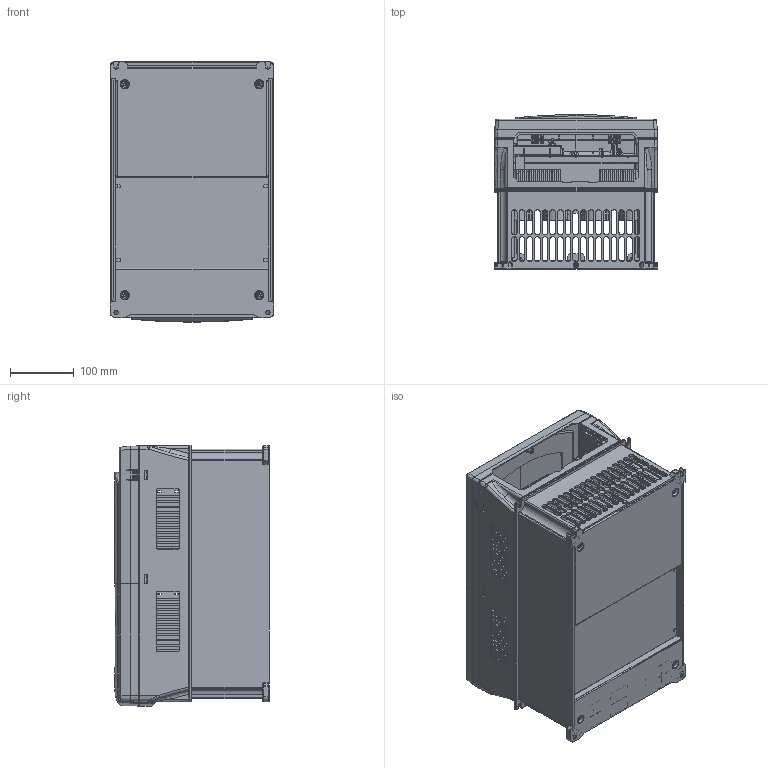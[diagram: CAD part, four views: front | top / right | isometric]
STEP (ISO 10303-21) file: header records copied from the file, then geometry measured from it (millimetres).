
FILE_DESCRIPTION((''),'2;1');
FILE_NAME('GD300-30G_ASM','2016-03-10T',('Administrator'),(''),'PRO/ENGINEER BY PARAMETRIC TECHNOLOGY CORPORATION, 2010280','PRO/ENGINEER BY PARAMETRIC TECHNOLOGY CORPORATION, 2010280','');
FILE_SCHEMA(('CONFIG_CONTROL_DESIGN'));
Products named in the file (8): 80740002; 80740001; LS06-10_ASM; 80740003; 80740004; FRONT_COVER-SU_ASM; 80380014; GD300-30G_ASM
Assembly tree (7 placements, depth 3):
  GD300-30G_ASM
    LS06-10_ASM
      80740002
      80740001
    FRONT_COVER-SU_ASM
      80740003
      80740004
    80380014
Bounding box: 255 x 241.5 x 406.82 mm (x, y, z)
Volume: 1819341.3 mm3; surface area: 1613188 mm2
Topology: 6 solids, 6 shells, 6661 faces, 18667 edges, 12103 vertices
Faces by surface type: plane 4494, cylinder 1393, bspline 339, torus 180, extrusion 102, cone 83, sphere 70
Entity records: 231363 total; most frequent: CARTESIAN_POINT 59851, ORIENTED_EDGE 37250, DIRECTION 33556, EDGE_CURVE 18625, VECTOR 13672, LINE 13570, VERTEX_POINT 12103, AXIS2_PLACEMENT_3D 9942
